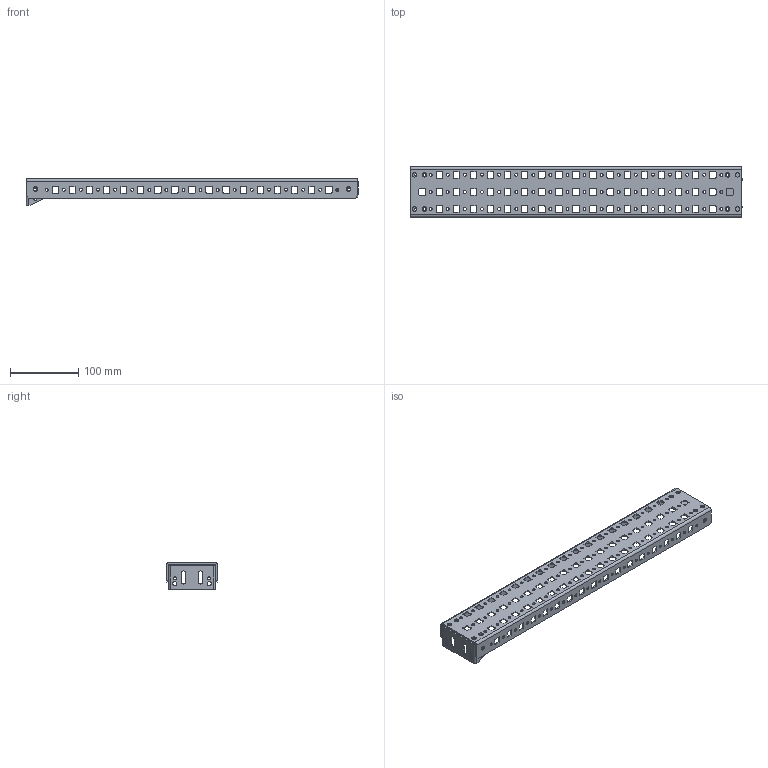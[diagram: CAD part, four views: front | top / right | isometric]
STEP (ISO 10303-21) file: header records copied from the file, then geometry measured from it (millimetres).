
FILE_DESCRIPTION(('STEP AP203'), '1');
FILE_NAME('MG 60.09 L Ðåéêà ìîíòàæíàÿ v2', '2021-05-20T07:38:57', ('UNSPECIFIED'), ('UNSPECIFIED'), 'ASCON STEP Converter 1.3', 'ASCON Math Kernel', '');
FILE_SCHEMA(('CONFIG_CONTROL_DESIGN'));
Length unit declared in the file: millimetre
Products named in the file (3): MG 60.09 L 01.001 Ðåéêà ìîíòàæíàÿ v2; MG 09 L 01.002 Êðîíøòåéí ðåéêè ìîíòàæíîé v2
Assembly tree (3 placements, depth 2):
  (unnamed)
    MG 60.09 L 01.001 Ðåéêà ìîíòàæíàÿ v2
    MG 09 L 01.002 Êðîíøòåéí ðåéêè ìîíòàæíîé v2  x2
Bounding box: 485.55 x 74.15 x 39 mm (x, y, z)
Volume: 117876 mm3; surface area: 132317.6 mm2
Topology: 3 solids, 3 shells, 960 faces, 2782 edges, 1828 vertices
Faces by surface type: cylinder 514, plane 438, bspline 8
Full cylindrical faces by diameter (mm): 4.2 x114, 6 x4, 6.5 x12
Entity records: 38336 total; most frequent: CARTESIAN_POINT 6060, DIRECTION 5234, ORIENTED_EDGE 5000, EDGE_CURVE 2500, AXIS2_PLACEMENT_3D 1852, VERTEX_POINT 1728, LINE 1530, VECTOR 1530
